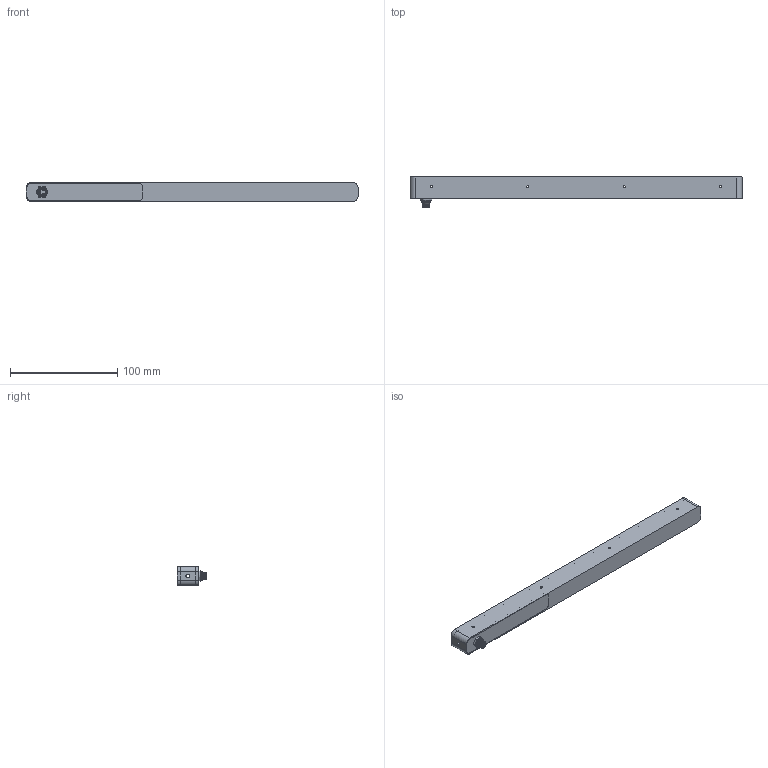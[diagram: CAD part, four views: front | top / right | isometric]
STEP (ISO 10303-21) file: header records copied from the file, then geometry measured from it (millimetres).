
FILE_DESCRIPTION (( 'STEP AP214' ), '1' );
FILE_NAME ('00704.01 Basisbaugruppe SBL-0130 Step18082020.STEP', '2020-08-18T13:02:04', ( '' ), ( '' ), 'SwSTEP 2.0', 'SolidWorks 2013', '' );
FILE_SCHEMA (( 'AUTOMOTIVE_DESIGN' ));
Length unit declared in the file: millimetre
Products named in the file (1): 00704.01 Basisbaugruppe SBL-0130 Step18082020
Bounding box: 310 x 28 x 18 mm (x, y, z)
Surface area: 29246.8 mm2 (no closed solid volume)
Topology: 0 solids, 9 shells, 79 faces, 235 edges, 167 vertices
Faces by surface type: cylinder 39, plane 33, cone 5, bspline 2
Full cylindrical faces by diameter (mm): 1 x4, 2.05 x8, 3.3 x2, 5.8 x1, 6.5 x2, 6.9 x1, 8 x1
Entity records: 4066 total; most frequent: CARTESIAN_POINT 1188, DIRECTION 436, ORIENTED_EDGE 317, EDGE_CURVE 200, AXIS2_PLACEMENT_3D 173, VERTEX_POINT 158, EDGE_LOOP 121, FACE_OUTER_BOUND 100
